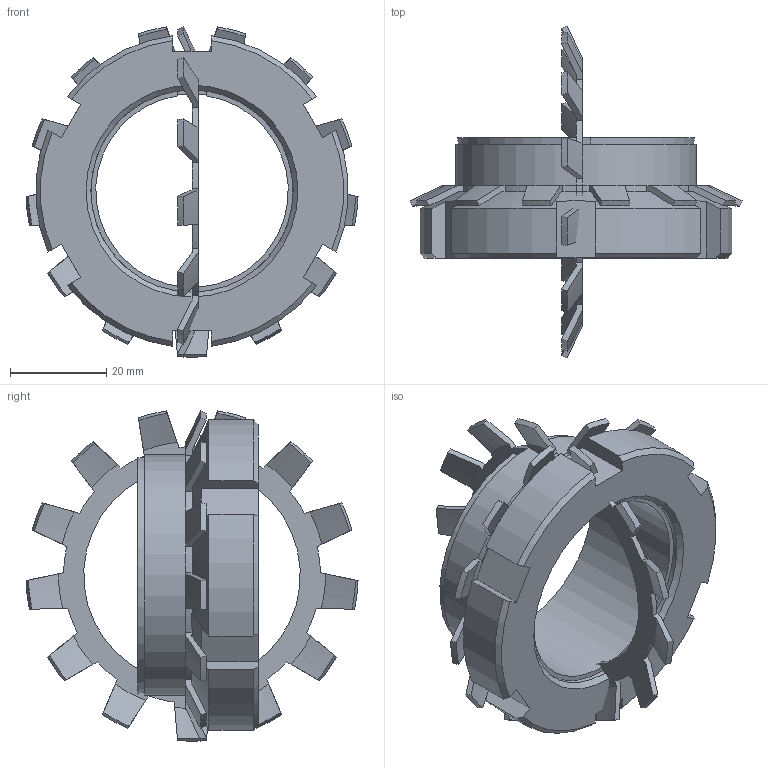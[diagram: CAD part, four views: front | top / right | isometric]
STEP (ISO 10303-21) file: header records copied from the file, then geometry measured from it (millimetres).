
FILE_DESCRIPTION( ( 'Unknown' ), '1' );
FILE_NAME( 'C:/Dokumente und Einstellungen/Sven/Desktop/homepage/cad - homepage/KBS51/KBS 51 - 40 x 50.stp', 'Unknown', ( 'Unknown' ), ( 'Unknown' ), 'XStep 1.0', 'Unknown', ' ' );
FILE_SCHEMA( ( 'automotive_design' ) );
Length unit declared in the file: millimetre
Products named in the file (3): Assem1; KBS 51 - 40 x 50; 08570095_locking_plate_din_5406_mb_9_2_14a
Bounding box: 68.96 x 68.96 x 68.57 mm (x, y, z)
Volume: 65476.4 mm3; surface area: 29615.5 mm2
Topology: 4 solids, 4 shells, 260 faces, 748 edges, 496 vertices
Faces by surface type: plane 116, cone 98, cylinder 46
Full cylindrical faces by diameter (mm): 42 x2, 50 x2
Entity records: 4700 total; most frequent: CARTESIAN_POINT 975, ORIENTED_EDGE 736, DIRECTION 686, EDGE_CURVE 368, AXIS2_PLACEMENT_3D 269, VERTEX_POINT 246, LINE 148, VECTOR 148
